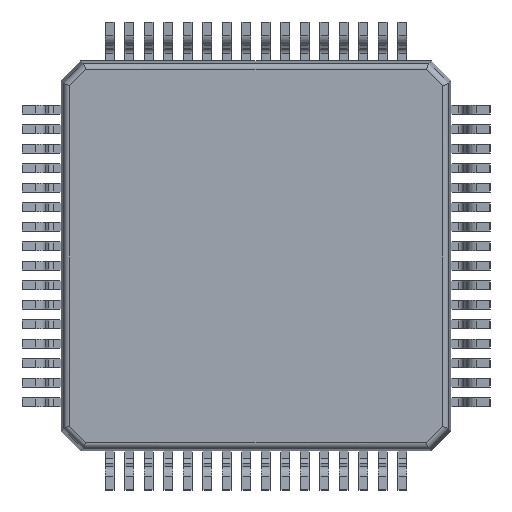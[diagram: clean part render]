
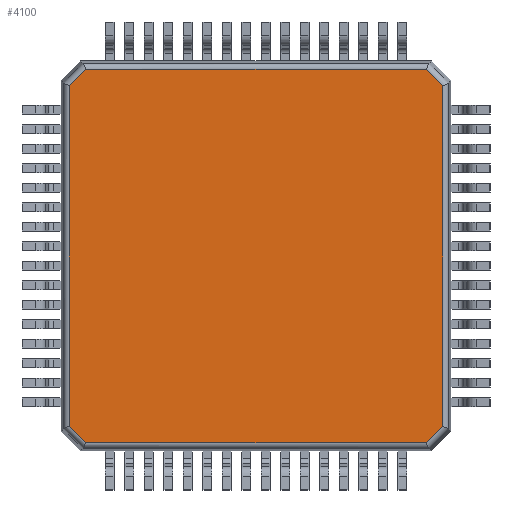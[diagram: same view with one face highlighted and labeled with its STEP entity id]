
A CAD part, front view. The second image highlights one B-rep face of the part: STEP entity #4100.
In plain terms, the highlighted planar face has unit normal (0, -1, 0).
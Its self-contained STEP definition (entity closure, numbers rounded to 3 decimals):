
#56 = VERTEX_POINT ( 'NONE', #10115 ) ;
#111 = EDGE_LOOP ( 'NONE', ( #21362, #370, #22639, #4349, #4395, #23627, #16218, #3416 ) ) ;
#370 = ORIENTED_EDGE ( 'NONE', *, *, #15241, .T. ) ;
#680 = CARTESIAN_POINT ( 'NONE',  ( -4.36, 0.15, 4.787 ) ) ;
#1645 = VECTOR ( 'NONE', #19271, 1000. ) ;
#2762 = DIRECTION ( 'NONE',  ( 0., 0., -1. ) ) ;
#3416 = ORIENTED_EDGE ( 'NONE', *, *, #20212, .T. ) ;
#4100 = ADVANCED_FACE ( 'NONE', ( #19289 ), #20770, .T. ) ;
#4239 = EDGE_CURVE ( 'NONE', #16560, #7108, #10045, .T. ) ;
#4349 = ORIENTED_EDGE ( 'NONE', *, *, #7390, .T. ) ;
#4395 = ORIENTED_EDGE ( 'NONE', *, *, #4239, .T. ) ;
#4808 = DIRECTION ( 'NONE',  ( 0., 0., -1. ) ) ;
#5356 = LINE ( 'NONE', #28098, #5842 ) ;
#5368 = VECTOR ( 'NONE', #23512, 1000. ) ;
#5842 = VECTOR ( 'NONE', #2762, 1000. ) ;
#6535 = VERTEX_POINT ( 'NONE', #27466 ) ;
#6698 = LINE ( 'NONE', #25181, #17482 ) ;
#6769 = CARTESIAN_POINT ( 'NONE',  ( -4.416, 0.15, 4.787 ) ) ;
#7108 = VERTEX_POINT ( 'NONE', #680 ) ;
#7390 = EDGE_CURVE ( 'NONE', #56, #16560, #25142, .T. ) ;
#8493 = CARTESIAN_POINT ( 'NONE',  ( -4.787, 0.15, 4.36 ) ) ;
#8727 = DIRECTION ( 'NONE',  ( 0.707, 0., -0.707 ) ) ;
#8737 = CARTESIAN_POINT ( 'NONE',  ( -4.787, 0.15, -4.36 ) ) ;
#10045 = LINE ( 'NONE', #6769, #29040 ) ;
#10115 = CARTESIAN_POINT ( 'NONE',  ( 4.787, 0.15, 4.36 ) ) ;
#10748 = LINE ( 'NONE', #11159, #20747 ) ;
#11051 = LINE ( 'NONE', #23928, #1645 ) ;
#11159 = CARTESIAN_POINT ( 'NONE',  ( 4.574, 0.15, -4.574 ) ) ;
#11580 = DIRECTION ( 'NONE',  ( 0.707, 0., 0.707 ) ) ;
#12347 = VERTEX_POINT ( 'NONE', #8493 ) ;
#12498 = CARTESIAN_POINT ( 'NONE',  ( 4.36, 0.15, -4.787 ) ) ;
#12799 = DIRECTION ( 'NONE',  ( 0., 0., 1. ) ) ;
#13478 = AXIS2_PLACEMENT_3D ( 'NONE', #23098, #27684, #4808 ) ;
#13483 = DIRECTION ( 'NONE',  ( -1., 0., 0. ) ) ;
#13734 = LINE ( 'NONE', #14947, #24046 ) ;
#14540 = LINE ( 'NONE', #18460, #5368 ) ;
#14875 = VECTOR ( 'NONE', #21374, 1000. ) ;
#14947 = CARTESIAN_POINT ( 'NONE',  ( 4.787, 0.15, 4.416 ) ) ;
#15241 = EDGE_CURVE ( 'NONE', #26537, #27723, #10748, .T. ) ;
#15321 = EDGE_CURVE ( 'NONE', #6535, #26537, #11051, .T. ) ;
#16218 = ORIENTED_EDGE ( 'NONE', *, *, #16236, .T. ) ;
#16236 = EDGE_CURVE ( 'NONE', #12347, #29062, #5356, .T. ) ;
#16560 = VERTEX_POINT ( 'NONE', #27388 ) ;
#17482 = VECTOR ( 'NONE', #8727, 1000. ) ;
#18460 = CARTESIAN_POINT ( 'NONE',  ( -4.574, 0.15, 4.574 ) ) ;
#19255 = EDGE_CURVE ( 'NONE', #27723, #56, #13734, .T. ) ;
#19271 = DIRECTION ( 'NONE',  ( 1., 0., 0. ) ) ;
#19289 = FACE_OUTER_BOUND ( 'NONE', #111, .T. ) ;
#19595 = EDGE_CURVE ( 'NONE', #7108, #12347, #14540, .T. ) ;
#20212 = EDGE_CURVE ( 'NONE', #29062, #6535, #6698, .T. ) ;
#20747 = VECTOR ( 'NONE', #11580, 1000. ) ;
#20770 = PLANE ( 'NONE',  #13478 ) ;
#21362 = ORIENTED_EDGE ( 'NONE', *, *, #15321, .T. ) ;
#21374 = DIRECTION ( 'NONE',  ( -0.707, 0., 0.707 ) ) ;
#22639 = ORIENTED_EDGE ( 'NONE', *, *, #19255, .T. ) ;
#23098 = CARTESIAN_POINT ( 'NONE',  ( 0., 0.15, 0. ) ) ;
#23512 = DIRECTION ( 'NONE',  ( -0.707, 0., -0.707 ) ) ;
#23519 = CARTESIAN_POINT ( 'NONE',  ( 4.787, 0.15, -4.36 ) ) ;
#23627 = ORIENTED_EDGE ( 'NONE', *, *, #19595, .T. ) ;
#23928 = CARTESIAN_POINT ( 'NONE',  ( 4.416, 0.15, -4.787 ) ) ;
#24046 = VECTOR ( 'NONE', #12799, 1000. ) ;
#25142 = LINE ( 'NONE', #28442, #14875 ) ;
#25181 = CARTESIAN_POINT ( 'NONE',  ( -4.574, 0.15, -4.574 ) ) ;
#26537 = VERTEX_POINT ( 'NONE', #12498 ) ;
#27388 = CARTESIAN_POINT ( 'NONE',  ( 4.36, 0.15, 4.787 ) ) ;
#27466 = CARTESIAN_POINT ( 'NONE',  ( -4.36, 0.15, -4.787 ) ) ;
#27684 = DIRECTION ( 'NONE',  ( 0., -1., 0. ) ) ;
#27723 = VERTEX_POINT ( 'NONE', #23519 ) ;
#28098 = CARTESIAN_POINT ( 'NONE',  ( -4.787, 0.15, -4.416 ) ) ;
#28442 = CARTESIAN_POINT ( 'NONE',  ( 4.574, 0.15, 4.574 ) ) ;
#29040 = VECTOR ( 'NONE', #13483, 1000. ) ;
#29062 = VERTEX_POINT ( 'NONE', #8737 ) ;
